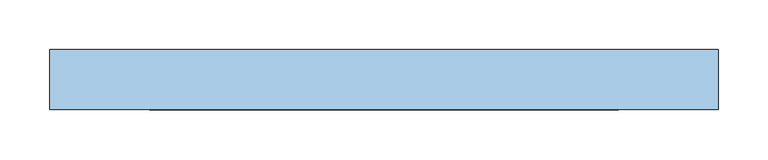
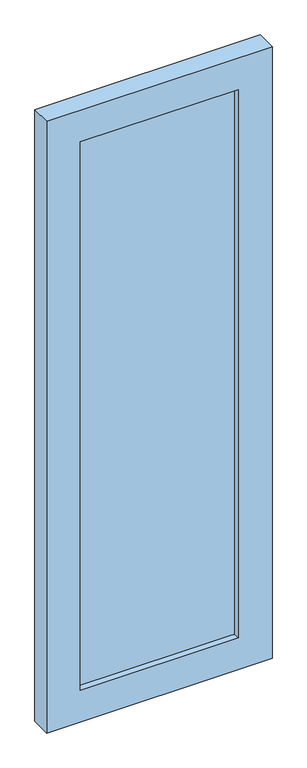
"""IFC4 building model written with IfcOpenShell, lengths in millimetres: window geometry, Витраж-тент Фронтсайд : Витраж-тент."""

from ifc_helpers import new_model, si_unit, frame, origin, place, context, project, spatial, polyline, outline, extrude, source, transform, mapped, element, save


def window_bba19c4c(model_context):
    return source(origin(), model_context, "Body", "SweptSolid", [
        extrude(outline(polyline([(234.5, 19.05), (-234.5, 19.05), (-234.5, 31.75), (234.5, 31.75), (234.5, 19.05)])), frame((0.0, 0.0, 130.0), z_axis=(0.0, 0.0, 1.0), x_axis=(1.0, 0.0, 0.0)), (0.0, 0.0, 1.0), 1720.0),
        extrude(outline(polyline([(1950.0, -334.5), (30.0, -334.5), (30.0, 334.5), (1950.0, 334.5), (1950.0, -334.5)]), holes=[polyline([(1850.0, -234.5), (1850.0, 234.5), (130.0, 234.5), (130.0, -234.5), (1850.0, -234.5)])]), frame((0.0, 0.0, 0.0), z_axis=(0.0, 1.0, 0.0), x_axis=(0.0, 0.0, 1.0)), (0.0, 0.0, 1.0), 60.0),
    ])


if __name__ == "__main__":
    model = new_model("IFC4")
    model_context = context("Model", 3, world=origin())
    ifc_project = project(units=[si_unit("LENGTHUNIT", "METRE", prefix="MILLI")], contexts=[model_context])
    site = spatial("IfcSite", under=ifc_project)
    building = spatial("IfcBuilding", under=site)
    placement = place(None, origin())
    window_shape = window_bba19c4c(model_context)
    element("IfcWindow", 1, ObjectType="Витраж-тент Фронтсайд : Витраж-тент", at=placement, inside=building, context=model_context, shape_type="MappedRepresentation", body=[
        mapped(window_shape, transform((0.0, 0.0, 0.0), x_axis=(1.0, 0.0, 0.0), y_axis=(0.0, 1.0, 0.0), z_axis=(0.0, 0.0, 1.0))),
    ])
    save(model, "model.ifc")
